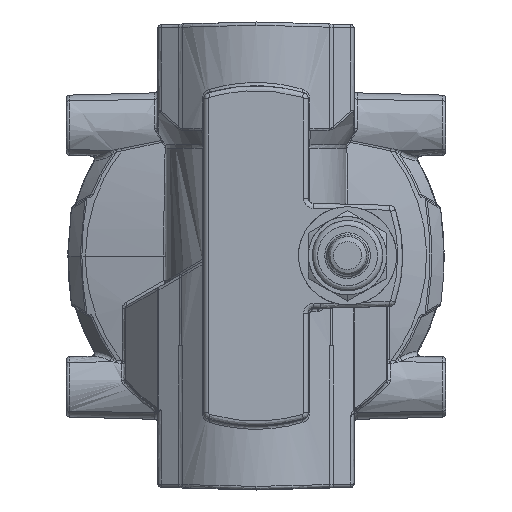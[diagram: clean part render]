
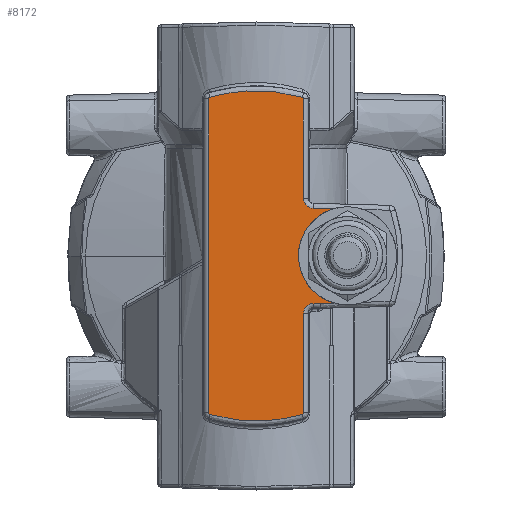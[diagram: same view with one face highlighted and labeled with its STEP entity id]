
A CAD part, top view. The second image highlights one B-rep face of the part: STEP entity #8172.
In plain terms, the highlighted free-form (B-spline) face has degree [1, 1] with [2, 2] control points.
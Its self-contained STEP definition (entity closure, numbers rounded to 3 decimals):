
#7986=CARTESIAN_POINT('F627',(-17.692,
   -57.32,96.5));
#7987=CARTESIAN_POINT('F627',(47.204,-57.32,
   96.5));
#7988=CARTESIAN_POINT('F627',(-17.692,57.28,
   96.5));
#7989=CARTESIAN_POINT('F627',(47.204,57.28,
   96.5));
#7990=B_SPLINE_SURFACE_WITH_KNOTS('F627',1,1,((#7986,#7988),(
   #7987,#7989)),.PLANE_SURF.,.F.,.F.,.U.,(2,2),(2,2),(0.0,1.0),(
   0.0,1.766),.UNSPECIFIED.);
#7991=CARTESIAN_POINT('V874',(23.89,-14.426,
   96.5));
#7992=VERTEX_POINT('V874',#7991);
#7993=CARTESIAN_POINT('V875',(23.764,14.389,
   96.5));
#7994=VERTEX_POINT('V875',#7993);
#7995=CARTESIAN_POINT('E1514',(23.89,
   -14.426,96.5));
#7996=CARTESIAN_POINT('E1514',(20.334,
   -13.413,96.5));
#7997=CARTESIAN_POINT('E1514',(17.656,
   -10.863,96.5));
#7998=CARTESIAN_POINT('E1514',(-1.159,7.052,
   96.5));
#7999=CARTESIAN_POINT('E1514',(23.764,14.389,
   96.5));
#8007=(BOUNDED_CURVE()B_SPLINE_CURVE(2,(#7995,#7996,#7997,#7998,
   #7999),.CIRCULAR_ARC.,.F.,.U.)B_SPLINE_CURVE_WITH_KNOTS((3,2,3),
   (0.0,0.083,0.416),.UNSPECIFIED.)CURVE()
   GEOMETRIC_REPRESENTATION_ITEM()RATIONAL_B_SPLINE_CURVE((
   0.813,0.875,1.0,0.5,1.0))
   REPRESENTATION_ITEM('E1514'));
#8008=EDGE_CURVE('E1514',#7992,#7994,#8007,.T.);
#8009=ORIENTED_EDGE('E1514',*,*,#8008,.T.);
#8010=CARTESIAN_POINT('V441',(17.43,14.555,
   96.5));
#8011=VERTEX_POINT('V441',#8010);
#8012=CARTESIAN_POINT('E1513',(23.764,14.389,
   96.5));
#8013=CARTESIAN_POINT('E1513',(17.43,14.555,
   96.5));
#8014=B_SPLINE_CURVE_WITH_KNOTS('E1513',1,(#8012,#8013),
   .POLYLINE_FORM.,.F.,.U.,(2,2),(9.192,
   11.881),.UNSPECIFIED.);
#8015=EDGE_CURVE('E1513',#7994,#8011,#8014,.T.);
#8016=ORIENTED_EDGE('E1513',*,*,#8015,.T.);
#8017=CARTESIAN_POINT('V439',(14.508,17.554,
   96.5));
#8018=VERTEX_POINT('V439',#8017);
#8019=CARTESIAN_POINT('E603',(17.43,14.555,
   96.5));
#8020=CARTESIAN_POINT('E603',(14.508,14.632,
   96.5));
#8021=CARTESIAN_POINT('E603',(14.508,17.554,
   96.5));
#8029=(BOUNDED_CURVE()B_SPLINE_CURVE(2,(#8019,#8020,#8021),
   .CIRCULAR_ARC.,.F.,.U.)B_SPLINE_CURVE_WITH_KNOTS((3,3),(2.0,
   3.967),.UNSPECIFIED.)CURVE()
   GEOMETRIC_REPRESENTATION_ITEM()RATIONAL_B_SPLINE_CURVE((1.0,
   0.716,1.0))REPRESENTATION_ITEM('E603'));
#8030=EDGE_CURVE('E603',#8011,#8018,#8029,.T.);
#8031=ORIENTED_EDGE('E603',*,*,#8030,.T.);
#8032=CARTESIAN_POINT('V443',(14.508,47.98,
   96.5));
#8033=VERTEX_POINT('V443',#8032);
#8034=CARTESIAN_POINT('E607',(14.508,17.554,
   96.5));
#8035=CARTESIAN_POINT('E607',(14.508,47.98,
   96.5));
#8036=B_SPLINE_CURVE_WITH_KNOTS('E607',1,(#8034,#8035),
   .POLYLINE_FORM.,.F.,.U.,(2,2),(2.0,14.913),
   .UNSPECIFIED.);
#8037=EDGE_CURVE('E607',#8018,#8033,#8036,.T.);
#8038=ORIENTED_EDGE('E607',*,*,#8037,.T.);
#8039=CARTESIAN_POINT('V445',(14.148,48.46,
   96.5));
#8040=VERTEX_POINT('V445',#8039);
#8041=CARTESIAN_POINT('E610',(14.508,47.98,
   96.5));
#8042=CARTESIAN_POINT('E610',(14.508,48.355,
   96.5));
#8043=CARTESIAN_POINT('E610',(14.148,48.46,
   96.5));
#8051=(BOUNDED_CURVE()B_SPLINE_CURVE(2,(#8041,#8042,#8043),
   .CIRCULAR_ARC.,.F.,.U.)B_SPLINE_CURVE_WITH_KNOTS((3,3),(2.0,
   3.0),.UNSPECIFIED.)CURVE()GEOMETRIC_REPRESENTATION_ITEM()
   RATIONAL_B_SPLINE_CURVE((1.0,0.8,1.0))
   REPRESENTATION_ITEM('E610'));
#8052=EDGE_CURVE('E610',#8033,#8040,#8051,.T.);
#8053=ORIENTED_EDGE('E610',*,*,#8052,.T.);
#8054=CARTESIAN_POINT('V447',(-14.132,48.46,
   96.5));
#8055=VERTEX_POINT('V447',#8054);
#8056=CARTESIAN_POINT('E613',(14.148,48.46,
   96.5));
#8057=CARTESIAN_POINT('E613',(0.008,52.584,
   96.5));
#8058=CARTESIAN_POINT('E613',(-14.132,48.46,
   96.5));
#8066=(BOUNDED_CURVE()B_SPLINE_CURVE(2,(#8056,#8057,#8058),
   .CIRCULAR_ARC.,.F.,.U.)B_SPLINE_CURVE_WITH_KNOTS((3,3),(2.0,
   14.165),.UNSPECIFIED.)CURVE()
   GEOMETRIC_REPRESENTATION_ITEM()RATIONAL_B_SPLINE_CURVE((1.0,
   0.96,1.0))REPRESENTATION_ITEM('E613'));
#8067=EDGE_CURVE('E613',#8040,#8055,#8066,.T.);
#8068=ORIENTED_EDGE('E613',*,*,#8067,.T.);
#8069=CARTESIAN_POINT('V449',(-14.492,47.98,
   96.5));
#8070=VERTEX_POINT('V449',#8069);
#8071=CARTESIAN_POINT('E616',(-14.132,48.46,
   96.5));
#8072=CARTESIAN_POINT('E616',(-14.492,48.355,
   96.5));
#8073=CARTESIAN_POINT('E616',(-14.492,47.98,
   96.5));
#8081=(BOUNDED_CURVE()B_SPLINE_CURVE(2,(#8071,#8072,#8073),
   .CIRCULAR_ARC.,.F.,.U.)B_SPLINE_CURVE_WITH_KNOTS((3,3),(2.0,
   3.0),.UNSPECIFIED.)CURVE()GEOMETRIC_REPRESENTATION_ITEM()
   RATIONAL_B_SPLINE_CURVE((1.0,0.8,1.0))
   REPRESENTATION_ITEM('E616'));
#8082=EDGE_CURVE('E616',#8055,#8070,#8081,.T.);
#8083=ORIENTED_EDGE('E616',*,*,#8082,.T.);
#8084=CARTESIAN_POINT('V451',(-14.492,
   -48.02,96.5));
#8085=VERTEX_POINT('V451',#8084);
#8086=CARTESIAN_POINT('E619',(-14.492,47.98,
   96.5));
#8087=CARTESIAN_POINT('E619',(-14.492,
   -48.02,96.5));
#8088=B_SPLINE_CURVE_WITH_KNOTS('E619',1,(#8086,#8087),
   .POLYLINE_FORM.,.F.,.U.,(2,2),(2.0,42.744),
   .UNSPECIFIED.);
#8089=EDGE_CURVE('E619',#8070,#8085,#8088,.T.);
#8090=ORIENTED_EDGE('E619',*,*,#8089,.T.);
#8091=CARTESIAN_POINT('V453',(-14.132,
   -48.5,96.5));
#8092=VERTEX_POINT('V453',#8091);
#8093=CARTESIAN_POINT('E622',(-14.492,
   -48.02,96.5));
#8094=CARTESIAN_POINT('E622',(-14.492,
   -48.395,96.5));
#8095=CARTESIAN_POINT('E622',(-14.132,
   -48.5,96.5));
#8103=(BOUNDED_CURVE()B_SPLINE_CURVE(2,(#8093,#8094,#8095),
   .CIRCULAR_ARC.,.F.,.U.)B_SPLINE_CURVE_WITH_KNOTS((3,3),(2.0,
   3.0),.UNSPECIFIED.)CURVE()GEOMETRIC_REPRESENTATION_ITEM()
   RATIONAL_B_SPLINE_CURVE((1.0,0.8,1.0))
   REPRESENTATION_ITEM('E622'));
#8104=EDGE_CURVE('E622',#8085,#8092,#8103,.T.);
#8105=ORIENTED_EDGE('E622',*,*,#8104,.T.);
#8106=CARTESIAN_POINT('V455',(14.148,-48.5,
   96.5));
#8107=VERTEX_POINT('V455',#8106);
#8108=CARTESIAN_POINT('E625',(-14.132,
   -48.5,96.5));
#8109=CARTESIAN_POINT('E625',(0.008,-52.624,
   96.5));
#8110=CARTESIAN_POINT('E625',(14.148,-48.5,
   96.5));
#8118=(BOUNDED_CURVE()B_SPLINE_CURVE(2,(#8108,#8109,#8110),
   .CIRCULAR_ARC.,.F.,.U.)B_SPLINE_CURVE_WITH_KNOTS((3,3),(2.0,
   14.165),.UNSPECIFIED.)CURVE()
   GEOMETRIC_REPRESENTATION_ITEM()RATIONAL_B_SPLINE_CURVE((1.0,
   0.96,1.0))REPRESENTATION_ITEM('E625'));
#8119=EDGE_CURVE('E625',#8092,#8107,#8118,.T.);
#8120=ORIENTED_EDGE('E625',*,*,#8119,.T.);
#8121=CARTESIAN_POINT('V457',(14.508,-48.02,
   96.5));
#8122=VERTEX_POINT('V457',#8121);
#8123=CARTESIAN_POINT('E628',(14.148,-48.5,
   96.5));
#8124=CARTESIAN_POINT('E628',(14.508,-48.395,
   96.5));
#8125=CARTESIAN_POINT('E628',(14.508,-48.02,
   96.5));
#8133=(BOUNDED_CURVE()B_SPLINE_CURVE(2,(#8123,#8124,#8125),
   .CIRCULAR_ARC.,.F.,.U.)B_SPLINE_CURVE_WITH_KNOTS((3,3),(2.0,
   3.0),.UNSPECIFIED.)CURVE()GEOMETRIC_REPRESENTATION_ITEM()
   RATIONAL_B_SPLINE_CURVE((1.0,0.8,1.0))
   REPRESENTATION_ITEM('E628'));
#8134=EDGE_CURVE('E628',#8107,#8122,#8133,.T.);
#8135=ORIENTED_EDGE('E628',*,*,#8134,.T.);
#8136=CARTESIAN_POINT('V459',(14.508,-17.589,
   96.5));
#8137=VERTEX_POINT('V459',#8136);
#8138=CARTESIAN_POINT('E631',(14.508,-48.02,
   96.5));
#8139=CARTESIAN_POINT('E631',(14.508,-17.589,
   96.5));
#8140=B_SPLINE_CURVE_WITH_KNOTS('E631',1,(#8138,#8139),
   .POLYLINE_FORM.,.F.,.U.,(2,2),(2.0,14.915),
   .UNSPECIFIED.);
#8141=EDGE_CURVE('E631',#8122,#8137,#8140,.T.);
#8142=ORIENTED_EDGE('E631',*,*,#8141,.T.);
#8143=CARTESIAN_POINT('V461',(17.429,-14.59,
   96.5));
#8144=VERTEX_POINT('V461',#8143);
#8145=CARTESIAN_POINT('E634',(14.508,-17.589,
   96.5));
#8146=CARTESIAN_POINT('E634',(14.508,-14.667,
   96.5));
#8147=CARTESIAN_POINT('E634',(17.429,-14.59,
   96.5));
#8155=(BOUNDED_CURVE()B_SPLINE_CURVE(2,(#8145,#8146,#8147),
   .CIRCULAR_ARC.,.F.,.U.)B_SPLINE_CURVE_WITH_KNOTS((3,3),(2.0,
   3.966),.UNSPECIFIED.)CURVE()
   GEOMETRIC_REPRESENTATION_ITEM()RATIONAL_B_SPLINE_CURVE((1.0,
   0.716,1.0))REPRESENTATION_ITEM('E634'));
#8156=EDGE_CURVE('E634',#8137,#8144,#8155,.T.);
#8157=ORIENTED_EDGE('E634',*,*,#8156,.T.);
#8158=CARTESIAN_POINT('V464',(19.581,-14.533,
   96.5));
#8159=VERTEX_POINT('V464',#8158);
#8160=CARTESIAN_POINT('E637',(17.429,-14.59,
   96.5));
#8161=CARTESIAN_POINT('E637',(19.581,-14.533,
   96.5));
#8162=B_SPLINE_CURVE_WITH_KNOTS('E637',1,(#8160,#8161),
   .POLYLINE_FORM.,.F.,.U.,(2,2),(2.0,3.0),.UNSPECIFIED.);
#8163=EDGE_CURVE('E637',#8144,#8159,#8162,.T.);
#8164=ORIENTED_EDGE('E637',*,*,#8163,.T.);
#8165=CARTESIAN_POINT('E1509',(19.581,
   -14.539,96.5));
#8166=CARTESIAN_POINT('E1509',(23.89,
   -14.426,96.5));
#8167=B_SPLINE_CURVE_WITH_KNOTS('E1509',1,(#8165,#8166),
   .POLYLINE_FORM.,.F.,.U.,(2,2),(2.0,3.829),
   .UNSPECIFIED.);
#8168=EDGE_CURVE('E1509',#8159,#7992,#8167,.T.);
#8169=ORIENTED_EDGE('E1509',*,*,#8168,.T.);
#8170=EDGE_LOOP('F627',(#8009,#8016,#8031,#8038,#8053,#8068,#8083,
   #8090,#8105,#8120,#8135,#8142,#8157,#8164,#8169));
#8171=FACE_OUTER_BOUND('F627',#8170,.T.);
#8172=ADVANCED_FACE('F627',(#8171),#7990,.T.);
